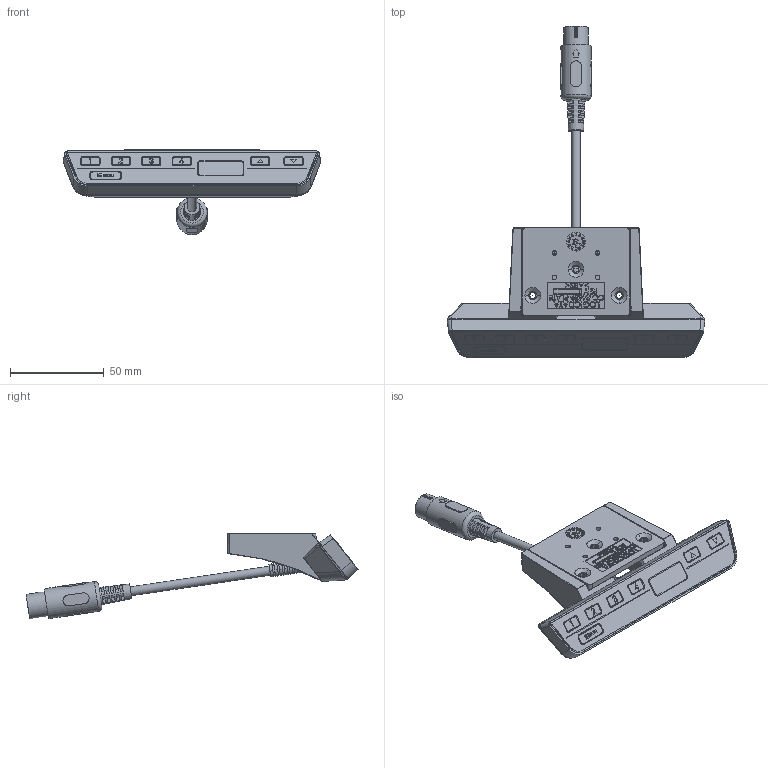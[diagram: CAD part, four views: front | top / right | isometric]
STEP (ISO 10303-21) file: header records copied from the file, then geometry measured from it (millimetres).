
FILE_DESCRIPTION(/* description */ ('Unknown','CAx-IF Rec.Pracs.---Representation and Presentation of Product Manufacturing Information (PMI)---4.0---2014-10-13','CAx-IF Rec.Pracs.---3D Tessellated Geometry---0.4---2014-09-14','2;1'),/* implementation_level */ '2;1');
FILE_NAME(/* name */ '124.00223_00-Eingefahren',/* time_stamp */ '2022-08-22T14:34:45+02:00',/* author */ ('Unknown'),/* organization */ ('Unknown'),/* preprocessor_version */ 'ST-DEVELOPER v18.102',/* originating_system */ 'Solid Edge',/* authorisation */ 'Unknown');
FILE_SCHEMA (('AP242_MANAGED_MODEL_BASED_3D_ENGINEERING_MIM_LF { 1 0 10303 442 1 1 4 }'));
Products named in the file (3): 124.00223; Handtaster_00; Schiebeplatte_00
Assembly tree (2 placements, depth 2):
  124.00223
    Handtaster_00
    Schiebeplatte_00
Bounding box: 137.22 x 177.06 x 45.8 mm (x, y, z)
Volume: 50589.9 mm3; surface area: 53134.6 mm2
Topology: 13 solids, 13 shells, 2785 faces, 7439 edges, 4920 vertices
Faces by surface type: plane 1685, cylinder 730, torus 192, cone 90, bspline 78, sphere 10
Full cylindrical faces by diameter (mm): 0.05 x4, 1.5 x7, 4.8 x2, 13.3 x1, 16 x1
Entity records: 96936 total; most frequent: CARTESIAN_POINT 27097, ORIENTED_EDGE 14818, DIRECTION 11994, EDGE_CURVE 7409, VERTEX_POINT 4917, LINE 4544, VECTOR 4544, AXIS2_PLACEMENT_3D 3725
